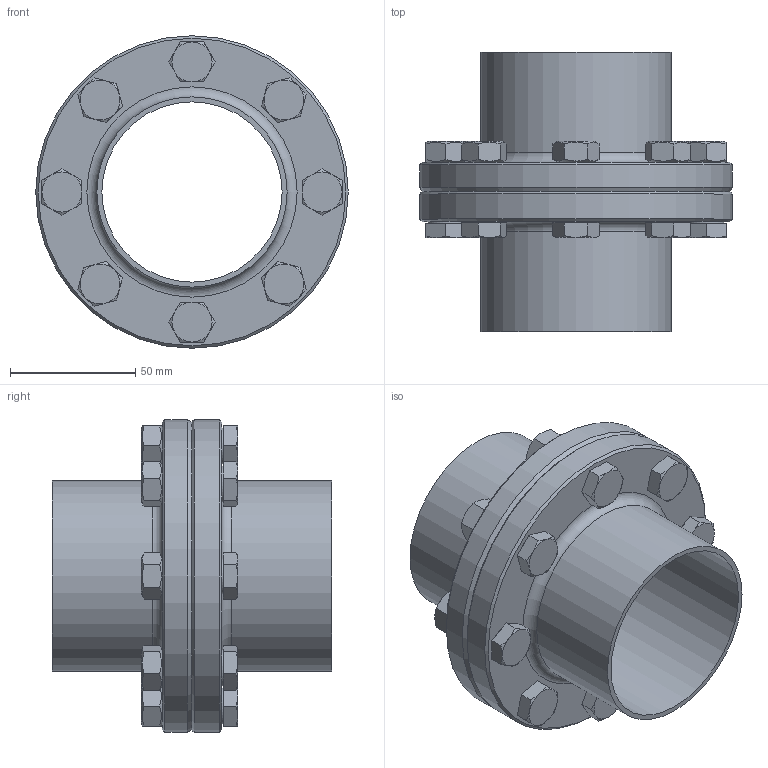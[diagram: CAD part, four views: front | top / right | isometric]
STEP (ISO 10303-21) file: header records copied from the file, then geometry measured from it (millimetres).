
FILE_DESCRIPTION(/* description */ ('DIN11864-2-A_76,1x2_L112_Fl125'),/* implementation_level */ '2;1');
FILE_NAME(/* name */ 'DIN11864-2-A_76,1x2_L112_Fl125.stp',/* time_stamp */ '2015-01-07T13:14:54+01:00',/* author */ ('DOCKWEILER AG'),/* organization */ ('DOCKWEILER AG'),/* preprocessor_version */ 'ST-DEVELOPER v15.6',/* originating_system */ 'Autodesk Inventor 2015',/* authorisation */ '');
FILE_SCHEMA (('CONFIG_CONTROL_DESIGN'));
Length unit declared in the file: millimetre
Products named in the file (6): N0003_007_003_21; N0003_007_004_21; N005_005_002_001_20; ISO 4032 - M10ISO; ISO 4017 - M10 x 30ISO; N0024_002_002
Assembly tree (19 placements, depth 2):
  N0024_002_002
    N0003_007_003_21
    N0003_007_004_21
    N005_005_002_001_20
    ISO 4032 - M10ISO  x8
    ISO 4017 - M10 x 30ISO  x8
Bounding box: 125 x 111.7 x 125 mm (x, y, z)
Volume: 258752.4 mm3; surface area: 116489.4 mm2
Topology: 19 solids, 19 shells, 310 faces, 658 edges, 406 vertices
Faces by surface type: plane 154, cone 96, cylinder 48, torus 12
Full cylindrical faces by diameter (mm): 8.376 x8, 10 x8, 11 x16, 14.63 x8, 72.1 x2, 76.1 x2, 88.1 x1, 88.2 x1, 125 x2
Entity records: 2424 total; most frequent: DIRECTION 416, CARTESIAN_POINT 400, ORIENTED_EDGE 260, AXIS2_PLACEMENT_3D 199, EDGE_LOOP 183, EDGE_CURVE 130, VERTEX_POINT 111, FACE_BOUND 97
